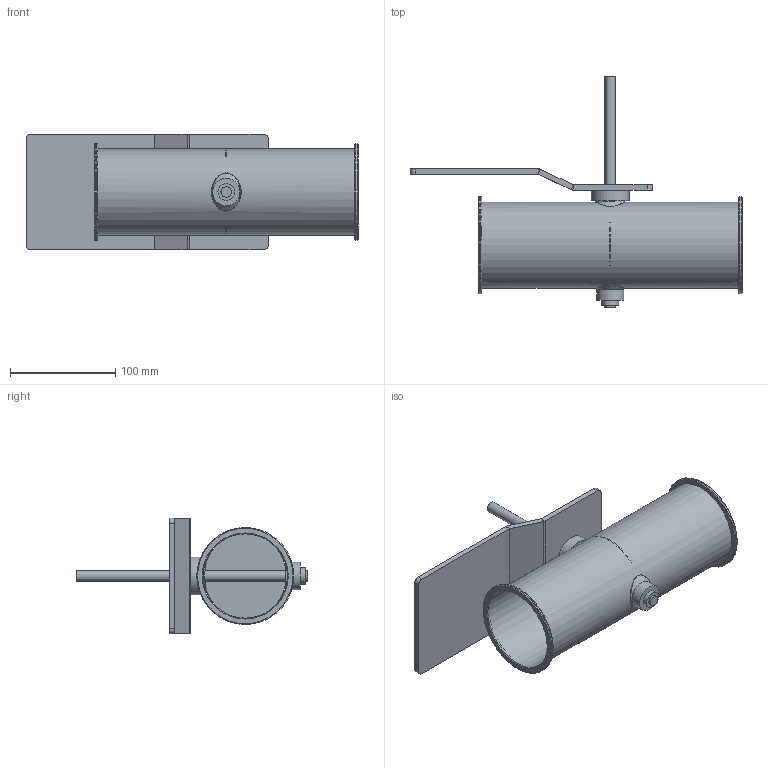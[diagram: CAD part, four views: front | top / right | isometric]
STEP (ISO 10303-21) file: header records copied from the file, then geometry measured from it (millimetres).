
FILE_DESCRIPTION(/* description */ (''),/* implementation_level */ '2;1');
FILE_NAME(/* name */ 'EA118-80B__80_L250_Belimo_Typen_NF_SF.stp',/* time_stamp */ '2017-12-05T12:09:29+01:00',/* author */ (''),/* organization */ (''),/* preprocessor_version */ 'ST-DEVELOPER v11',/* originating_system */ 'SIEMENS UGS NX 6.0',/* authorisation */ '');
FILE_SCHEMA (('CONFIG_CONTROL_DESIGN'));
Length unit declared in the file: millimetre
Products named in the file (1): gars1E3Bhiev
Bounding box: 315 x 219 x 110 mm (x, y, z)
Volume: 226144.1 mm3; surface area: 213891.8 mm2
Topology: 8 solids, 8 shells, 90 faces, 187 edges, 121 vertices
Faces by surface type: plane 42, cylinder 30, torus 10, cone 4, bspline 4
Full cylindrical faces by diameter (mm): 4.1 x2, 10 x3, 15 x3, 15.85 x2, 16 x2, 24 x2, 26 x1, 36 x1, 80 x1, 81.6 x1, 92 x2
Entity records: 2848 total; most frequent: CARTESIAN_POINT 1055, DIRECTION 370, ORIENTED_EDGE 260, AXIS2_PLACEMENT_3D 161, EDGE_LOOP 156, EDGE_CURVE 130, FACE_BOUND 126, VERTEX_POINT 102
